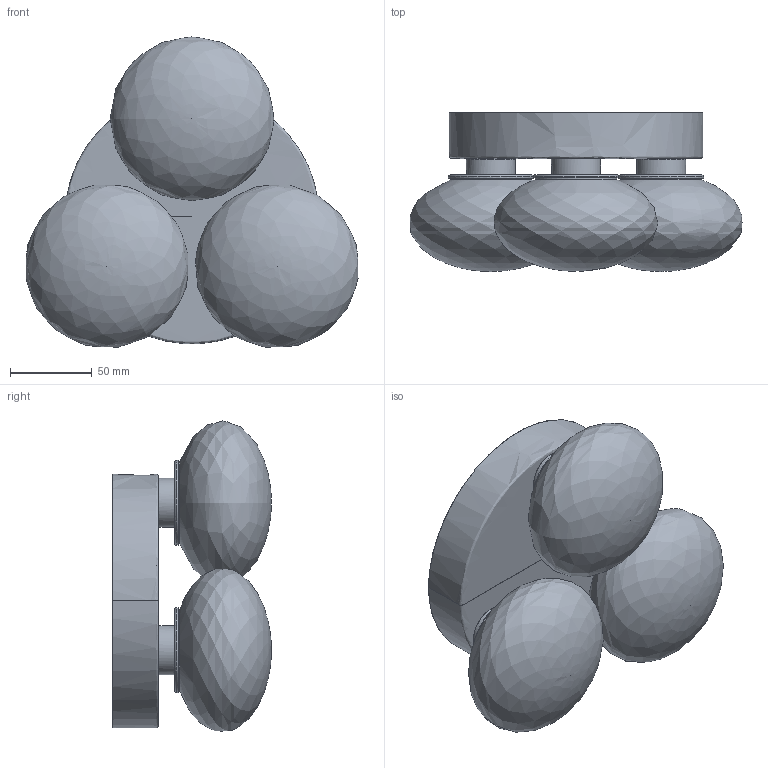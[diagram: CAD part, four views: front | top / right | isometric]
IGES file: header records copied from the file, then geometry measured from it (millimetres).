
Global section: file name: /Users/danielszollosi/Documents/SkLO/Sklo.com/3D models/WEB 3D Models/SkLO_Dot_Sconce_3_LTM04_3D.igs; native system: Rhinoceros ( Sep 24 2023 ); preprocessor: Trout Lake IGES 012 Sep 24 2023; date: 241021.084312; units: millimetre
Bounding box: 202.85 x 97.01 x 189.46 mm (x, y, z)
Surface area: 245737.2 mm2 (no closed solid volume)
Topology: 0 solids, 0 shells, 221 faces, 1305 edges, 1228 vertices
Faces by surface type: bspline 221
